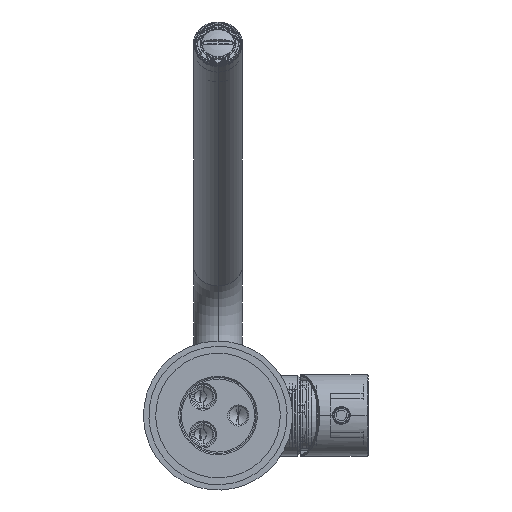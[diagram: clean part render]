
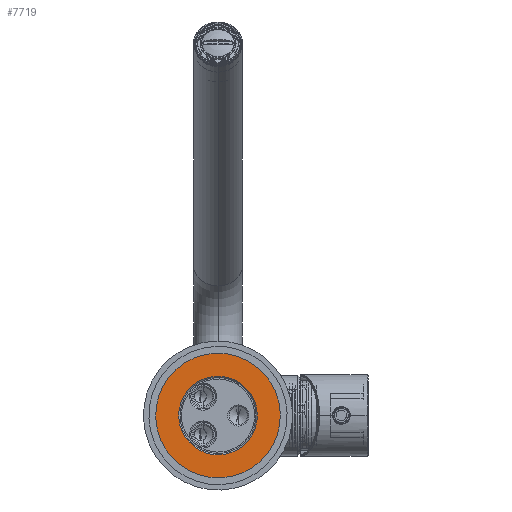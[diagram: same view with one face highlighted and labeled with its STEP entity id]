
A CAD part, front view. The second image highlights one B-rep face of the part: STEP entity #7719.
In plain terms, the highlighted planar face has unit normal (0, -1, 0).
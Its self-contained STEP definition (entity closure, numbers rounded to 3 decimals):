
#1053 = AXIS2_PLACEMENT_3D ( 'NONE', #16732, #30018, #23473 ) ;
#1156 = EDGE_LOOP ( 'NONE', ( #24876, #40351 ) ) ;
#2206 = AXIS2_PLACEMENT_3D ( 'NONE', #12181, #25430, #22376 ) ;
#3478 = CARTESIAN_POINT ( 'NONE',  ( 0., 0., -14.5 ) ) ;
#3997 = ORIENTED_EDGE ( 'NONE', *, *, #33736, .T. ) ;
#6891 = DIRECTION ( 'NONE',  ( 0., 0., 1. ) ) ;
#7046 = FACE_BOUND ( 'NONE', #1156, .T. ) ;
#7385 = EDGE_LOOP ( 'NONE', ( #37993, #3997 ) ) ;
#7719 = ADVANCED_FACE ( 'NONE', ( #7046, #23557 ), #30961, .F. ) ;
#11437 = CIRCLE ( 'NONE', #35749, 14.5 ) ;
#12181 = CARTESIAN_POINT ( 'NONE',  ( 0., 0., 0. ) ) ;
#12333 = VERTEX_POINT ( 'NONE', #33619 ) ;
#14039 = DIRECTION ( 'NONE',  ( 0., 1., 0. ) ) ;
#14258 = CARTESIAN_POINT ( 'NONE',  ( 0., 0., 0. ) ) ;
#16732 = CARTESIAN_POINT ( 'NONE',  ( 0., 0., 0. ) ) ;
#17445 = CARTESIAN_POINT ( 'NONE',  ( -14., 0., 0. ) ) ;
#19671 = VERTEX_POINT ( 'NONE', #3478 ) ;
#19792 = CIRCLE ( 'NONE', #1053, 23. ) ;
#19847 = DIRECTION ( 'NONE',  ( 0., 1., 0. ) ) ;
#20057 = CARTESIAN_POINT ( 'NONE',  ( 0., 0., 0. ) ) ;
#21379 = EDGE_CURVE ( 'NONE', #19671, #41248, #38007, .T. ) ;
#22376 = DIRECTION ( 'NONE',  ( 0., 0., -1. ) ) ;
#22433 = CIRCLE ( 'NONE', #2206, 23. ) ;
#23473 = DIRECTION ( 'NONE',  ( 0., 0., -1. ) ) ;
#23557 = FACE_OUTER_BOUND ( 'NONE', #7385, .T. ) ;
#23782 = CARTESIAN_POINT ( 'NONE',  ( 0., 0., -23. ) ) ;
#24876 = ORIENTED_EDGE ( 'NONE', *, *, #21379, .T. ) ;
#25430 = DIRECTION ( 'NONE',  ( 0., -1., 0. ) ) ;
#30018 = DIRECTION ( 'NONE',  ( 0., -1., 0. ) ) ;
#30527 = DIRECTION ( 'NONE',  ( 0., 0., 1. ) ) ;
#30961 = PLANE ( 'NONE',  #33416 ) ;
#33313 = VERTEX_POINT ( 'NONE', #23782 ) ;
#33416 = AXIS2_PLACEMENT_3D ( 'NONE', #17445, #40518, #30527 ) ;
#33619 = CARTESIAN_POINT ( 'NONE',  ( 0., 0., 23. ) ) ;
#33736 = EDGE_CURVE ( 'NONE', #12333, #33313, #22433, .T. ) ;
#35749 = AXIS2_PLACEMENT_3D ( 'NONE', #14258, #14039, #6891 ) ;
#35944 = AXIS2_PLACEMENT_3D ( 'NONE', #20057, #19847, #42114 ) ;
#37322 = EDGE_CURVE ( 'NONE', #33313, #12333, #19792, .T. ) ;
#37993 = ORIENTED_EDGE ( 'NONE', *, *, #37322, .T. ) ;
#38007 = CIRCLE ( 'NONE', #35944, 14.5 ) ;
#40351 = ORIENTED_EDGE ( 'NONE', *, *, #42748, .T. ) ;
#40518 = DIRECTION ( 'NONE',  ( 0., 1., 0. ) ) ;
#40835 = CARTESIAN_POINT ( 'NONE',  ( 0., 0., 14.5 ) ) ;
#41248 = VERTEX_POINT ( 'NONE', #40835 ) ;
#42114 = DIRECTION ( 'NONE',  ( 0., 0., 1. ) ) ;
#42748 = EDGE_CURVE ( 'NONE', #41248, #19671, #11437, .T. ) ;
